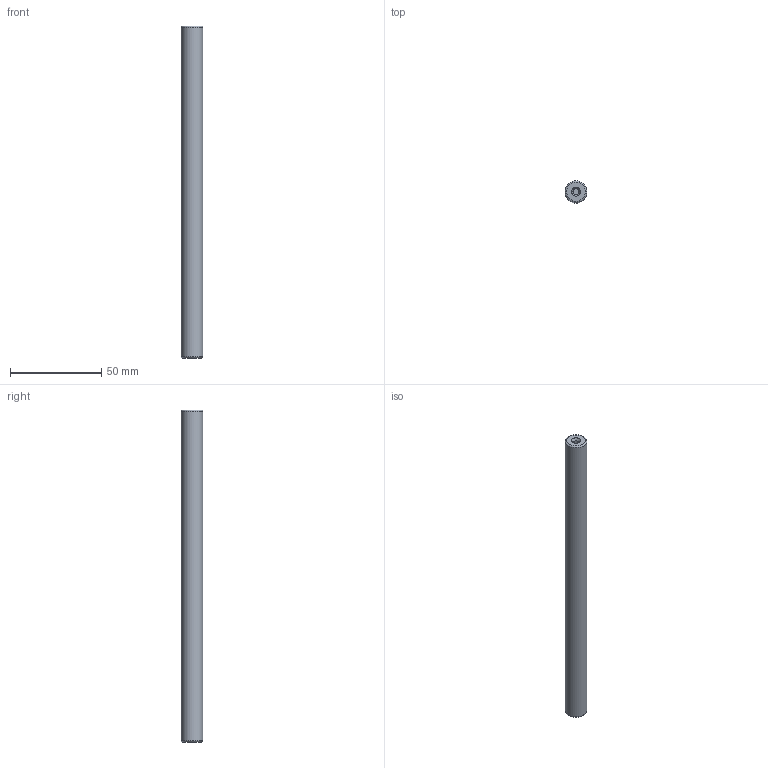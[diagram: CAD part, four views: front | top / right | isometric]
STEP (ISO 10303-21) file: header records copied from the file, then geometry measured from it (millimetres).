
FILE_DESCRIPTION(/* description */ (''),/* implementation_level */ '2;1');
FILE_NAME(/* name */ 'LM2070-080-Rod.stp',/* time_stamp */ '2017-09-06T14:09:36+02:00',/* author */ ('DR. FRITZ FAULHABER GmbH & Co. KG'),/* organization */ ('DR. FRITZ FAULHABER GmbH & Co. KG'),/* preprocessor_version */ 'ST-DEVELOPER v16',/* originating_system */ 'SIEMENS PLM Software NX 10.0',/* authorisation */ '');
FILE_SCHEMA (('AUTOMOTIVE_DESIGN { 1 0 10303 214 3 1 1 1 }'));
Length unit declared in the file: millimetre
Products named in the file (1): Alle_Motoren
Bounding box: 12 x 12 x 182 mm (x, y, z)
Volume: 20421.6 mm3; surface area: 7218.5 mm2
Topology: 1 solids, 1 shells, 11 faces, 20 edges, 13 vertices
Faces by surface type: plane 4, cylinder 3, cone 2, torus 2
Full cylindrical faces by diameter (mm): 3.3 x2, 12 x1
Entity records: 238 total; most frequent: DIRECTION 44, CARTESIAN_POINT 32, AXIS2_PLACEMENT_3D 22, EDGE_LOOP 20, ORIENTED_EDGE 20, FACE_BOUND 18, ADVANCED_FACE 11, VERTEX_POINT 10
